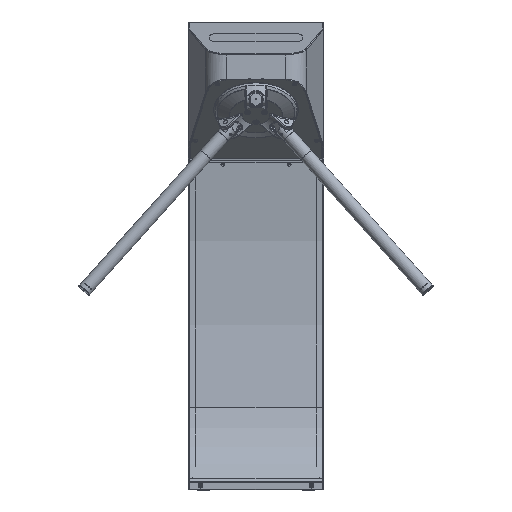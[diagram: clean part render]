
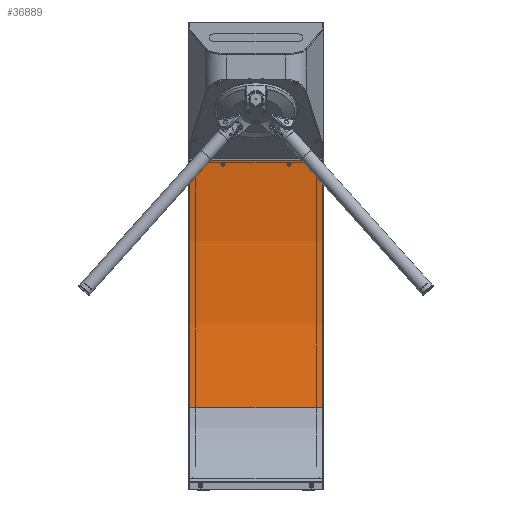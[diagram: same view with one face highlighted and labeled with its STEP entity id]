
A CAD part, front view. The second image highlights one B-rep face of the part: STEP entity #36889.
In plain terms, the highlighted cylindrical face has radius 1659.22 mm (diameter 3318.44 mm), a partial arc.
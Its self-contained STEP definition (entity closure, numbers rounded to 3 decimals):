
#1487=CYLINDRICAL_SURFACE('',#50042,1659.222);
#3827=CIRCLE('',#50041,1659.222);
#3828=CIRCLE('',#50043,1659.222);
#7386=ORIENTED_EDGE('',*,*,#17346,.T.);
#7387=ORIENTED_EDGE('',*,*,#17347,.F.);
#7388=ORIENTED_EDGE('',*,*,#17348,.F.);
#7389=ORIENTED_EDGE('',*,*,#17322,.T.);
#17322=EDGE_CURVE('',#22502,#22501,#25981,.T.);
#17346=EDGE_CURVE('',#22501,#22513,#3827,.T.);
#17347=EDGE_CURVE('',#22514,#22513,#25987,.F.);
#17348=EDGE_CURVE('',#22502,#22514,#3828,.T.);
#22501=VERTEX_POINT('',#65599);
#22502=VERTEX_POINT('',#65603);
#22513=VERTEX_POINT('',#65647);
#22514=VERTEX_POINT('',#65651);
#25981=LINE('',#65602,#28124);
#25987=LINE('',#65650,#28130);
#28124=VECTOR('',#55385,1000.);
#28130=VECTOR('',#55451,1000.);
#30289=EDGE_LOOP('',(#7386,#7387,#7388,#7389));
#33230=FACE_BOUND('',#30289,.T.);
#36889=ADVANCED_FACE('',(#33230),#1487,.F.);
#50041=AXIS2_PLACEMENT_3D('',#65648,#55447,#55448);
#50042=AXIS2_PLACEMENT_3D('',#65649,#55449,#55450);
#50043=AXIS2_PLACEMENT_3D('',#65652,#55452,#55453);
#55385=DIRECTION('',(1.,0.,0.));
#55447=DIRECTION('',(1.,0.,0.));
#55448=DIRECTION('',(0.,0.984,-0.176));
#55449=DIRECTION('',(1.,0.,0.));
#55450=DIRECTION('',(0.,0.176,0.984));
#55451=DIRECTION('',(-1.,0.,0.));
#55452=DIRECTION('',(1.,0.,0.));
#55453=DIRECTION('',(0.,0.984,-0.176));
#65599=CARTESIAN_POINT('',(149.,0.082,-712.864));
#65602=CARTESIAN_POINT('',(0.,0.082,-712.864));
#65603=CARTESIAN_POINT('',(-149.,0.082,-712.864));
#65647=CARTESIAN_POINT('',(149.,4.053,-151.813));
#65648=CARTESIAN_POINT('',(149.,-1633.226,-420.763));
#65649=CARTESIAN_POINT('',(0.,-1633.226,-420.763));
#65650=CARTESIAN_POINT('',(-149.,4.053,-151.813));
#65651=CARTESIAN_POINT('',(-149.,4.053,-151.813));
#65652=CARTESIAN_POINT('',(-149.,-1633.226,-420.763));
